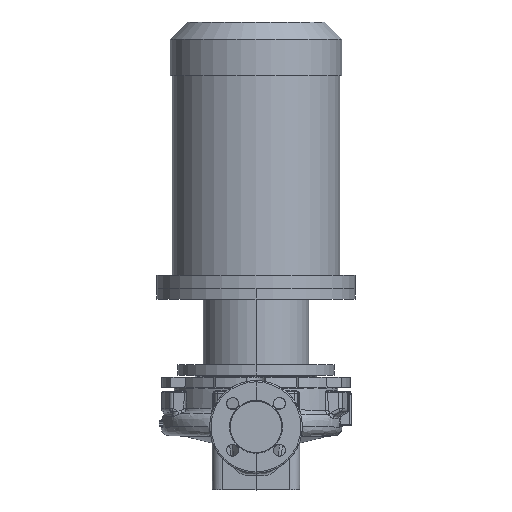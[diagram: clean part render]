
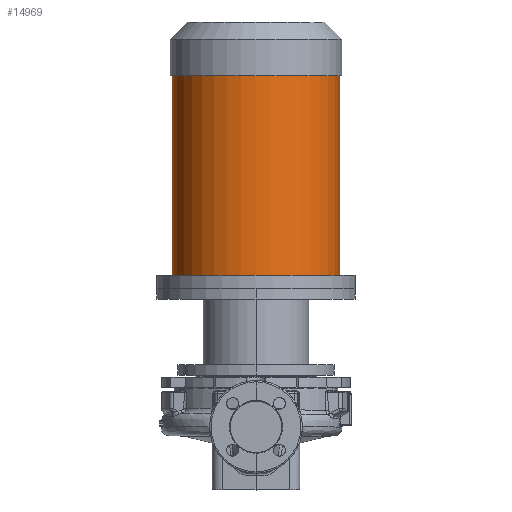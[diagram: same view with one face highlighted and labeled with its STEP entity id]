
A CAD part, top view. The second image highlights one B-rep face of the part: STEP entity #14969.
In plain terms, the highlighted cylindrical face has radius 126.5 mm (diameter 253 mm), a partial arc.
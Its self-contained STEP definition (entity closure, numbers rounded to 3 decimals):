
#1681 = DIRECTION ( 'NONE',  ( -1., 0., 0. ) ) ;
#2396 = VERTEX_POINT ( 'NONE', #55811 ) ;
#3638 = DIRECTION ( 'NONE',  ( 0., -1., 0. ) ) ;
#6693 = ORIENTED_EDGE ( 'NONE', *, *, #27721, .T. ) ;
#7409 = ORIENTED_EDGE ( 'NONE', *, *, #47680, .T. ) ;
#8666 = ORIENTED_EDGE ( 'NONE', *, *, #11754, .F. ) ;
#9386 = CARTESIAN_POINT ( 'NONE',  ( -126.5, 531.3, 0. ) ) ;
#11754 = EDGE_CURVE ( 'NONE', #41224, #2396, #43451, .T. ) ;
#13179 = DIRECTION ( 'NONE',  ( -1., 0., 0. ) ) ;
#14969 = ADVANCED_FACE ( 'NONE', ( #64027 ), #50101, .T. ) ;
#17259 = VERTEX_POINT ( 'NONE', #27442 ) ;
#18285 = CIRCLE ( 'NONE', #57246, 126.5 ) ;
#21923 = EDGE_LOOP ( 'NONE', ( #8666, #7409, #6693, #42497 ) ) ;
#22014 = VERTEX_POINT ( 'NONE', #9386 ) ;
#24850 = EDGE_CURVE ( 'NONE', #2396, #17259, #18285, .T. ) ;
#27426 = DIRECTION ( 'NONE',  ( 0., -1., 0. ) ) ;
#27442 = CARTESIAN_POINT ( 'NONE',  ( -126.5, 229.3, 0. ) ) ;
#27721 = EDGE_CURVE ( 'NONE', #22014, #17259, #43640, .T. ) ;
#30558 = VECTOR ( 'NONE', #3638, 1000. ) ;
#33200 = CARTESIAN_POINT ( 'NONE',  ( 0., 209.3, 0. ) ) ;
#35889 = CIRCLE ( 'NONE', #49438, 126.5 ) ;
#36852 = DIRECTION ( 'NONE',  ( 0., -1., 0. ) ) ;
#38121 = DIRECTION ( 'NONE',  ( -1., 0., 0. ) ) ;
#38593 = CARTESIAN_POINT ( 'NONE',  ( 126.5, 531.3, 0. ) ) ;
#41224 = VERTEX_POINT ( 'NONE', #38593 ) ;
#41832 = CARTESIAN_POINT ( 'NONE',  ( 0., 229.3, 0. ) ) ;
#42497 = ORIENTED_EDGE ( 'NONE', *, *, #24850, .F. ) ;
#42737 = DIRECTION ( 'NONE',  ( 0., -1., 0. ) ) ;
#43451 = LINE ( 'NONE', #47088, #51967 ) ;
#43640 = LINE ( 'NONE', #57621, #30558 ) ;
#43732 = DIRECTION ( 'NONE',  ( 0., -1., 0. ) ) ;
#47088 = CARTESIAN_POINT ( 'NONE',  ( 126.5, 209.3, 0. ) ) ;
#47680 = EDGE_CURVE ( 'NONE', #41224, #22014, #35889, .T. ) ;
#49438 = AXIS2_PLACEMENT_3D ( 'NONE', #52892, #42737, #13179 ) ;
#50101 = CYLINDRICAL_SURFACE ( 'NONE', #57604, 126.5 ) ;
#51967 = VECTOR ( 'NONE', #27426, 1000. ) ;
#52892 = CARTESIAN_POINT ( 'NONE',  ( 0., 531.3, 0. ) ) ;
#55811 = CARTESIAN_POINT ( 'NONE',  ( 126.5, 229.3, 0. ) ) ;
#57246 = AXIS2_PLACEMENT_3D ( 'NONE', #41832, #36852, #1681 ) ;
#57604 = AXIS2_PLACEMENT_3D ( 'NONE', #33200, #43732, #38121 ) ;
#57621 = CARTESIAN_POINT ( 'NONE',  ( -126.5, 209.3, 0. ) ) ;
#64027 = FACE_OUTER_BOUND ( 'NONE', #21923, .T. ) ;
